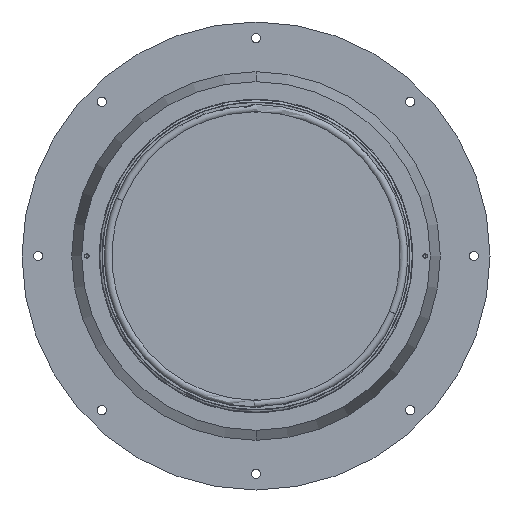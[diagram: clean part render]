
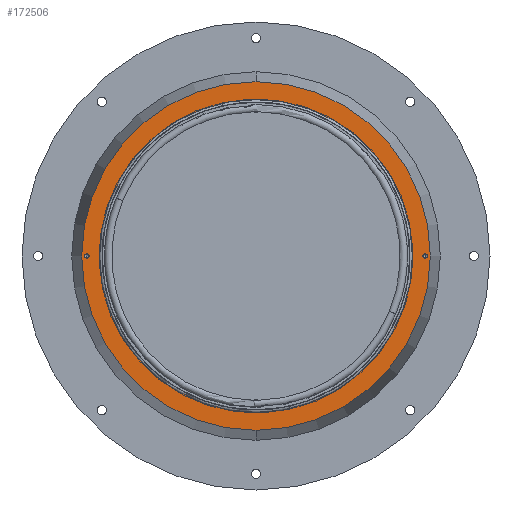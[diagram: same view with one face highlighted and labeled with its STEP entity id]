
A CAD part, front view. The second image highlights one B-rep face of the part: STEP entity #172506.
In plain terms, the highlighted planar face has unit normal (0, -1, 0).
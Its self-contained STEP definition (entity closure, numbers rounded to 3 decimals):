
#2004 = CARTESIAN_POINT ( 'NONE',  ( -330., -724.968, -4.25 ) ) ;
#2142 = EDGE_LOOP ( 'NONE', ( #52162, #388819 ) ) ;
#12715 = DIRECTION ( 'NONE',  ( 0., -1., 0. ) ) ;
#19150 = FACE_BOUND ( 'NONE', #314135, .T. ) ;
#20608 = CARTESIAN_POINT ( 'NONE',  ( 0., -724.968, 340. ) ) ;
#22301 = DIRECTION ( 'NONE',  ( 0., -1., 0. ) ) ;
#30857 = FACE_BOUND ( 'NONE', #2142, .T. ) ;
#52162 = ORIENTED_EDGE ( 'NONE', *, *, #366896, .F. ) ;
#70989 = ORIENTED_EDGE ( 'NONE', *, *, #370646, .F. ) ;
#97877 = EDGE_LOOP ( 'NONE', ( #301619, #477193 ) ) ;
#101218 = CIRCLE ( 'NONE', #136009, 4.25 ) ;
#107237 = EDGE_LOOP ( 'NONE', ( #70989, #304598 ) ) ;
#110704 = AXIS2_PLACEMENT_3D ( 'NONE', #412339, #188646, #449771 ) ;
#117000 = VERTEX_POINT ( 'NONE', #353066 ) ;
#118195 = CIRCLE ( 'NONE', #398965, 340. ) ;
#130348 = FACE_OUTER_BOUND ( 'NONE', #97877, .T. ) ;
#136009 = AXIS2_PLACEMENT_3D ( 'NONE', #446844, #223235, #484251 ) ;
#136924 = VERTEX_POINT ( 'NONE', #359837 ) ;
#137596 = ORIENTED_EDGE ( 'NONE', *, *, #338504, .F. ) ;
#162644 = DIRECTION ( 'NONE',  ( 0., -1., 0. ) ) ;
#164962 = VERTEX_POINT ( 'NONE', #414720 ) ;
#172506 = ADVANCED_FACE ( 'NONE', ( #30857, #19150, #130348, #218132 ), #257318, .T. ) ;
#174313 = CARTESIAN_POINT ( 'NONE',  ( 0., -724.968, 0. ) ) ;
#184202 = DIRECTION ( 'NONE',  ( 0., -1., 0. ) ) ;
#188646 = DIRECTION ( 'NONE',  ( 0., -1., 0. ) ) ;
#189972 = AXIS2_PLACEMENT_3D ( 'NONE', #407905, #184202, #445305 ) ;
#211861 = DIRECTION ( 'NONE',  ( 0., 0., -1. ) ) ;
#214868 = VERTEX_POINT ( 'NONE', #2004 ) ;
#218132 = FACE_BOUND ( 'NONE', #107237, .T. ) ;
#218382 = DIRECTION ( 'NONE',  ( 0., -1., 0. ) ) ;
#221471 = DIRECTION ( 'NONE',  ( 0., -1., 0. ) ) ;
#223235 = DIRECTION ( 'NONE',  ( 0., -1., 0. ) ) ;
#236705 = CARTESIAN_POINT ( 'NONE',  ( -330., -724.968, 0. ) ) ;
#246207 = CARTESIAN_POINT ( 'NONE',  ( 0., -724.968, 0. ) ) ;
#249094 = AXIS2_PLACEMENT_3D ( 'NONE', #246207, #22301, #283774 ) ;
#257318 = PLANE ( 'NONE',  #371622 ) ;
#265404 = CIRCLE ( 'NONE', #405240, 305. ) ;
#274213 = DIRECTION ( 'NONE',  ( 0., 0., -1. ) ) ;
#275218 = CIRCLE ( 'NONE', #189972, 305. ) ;
#282989 = CIRCLE ( 'NONE', #110704, 4.25 ) ;
#283774 = DIRECTION ( 'NONE',  ( 0., 0., -1. ) ) ;
#289037 = ORIENTED_EDGE ( 'NONE', *, *, #369166, .F. ) ;
#293049 = CIRCLE ( 'NONE', #249094, 340. ) ;
#297052 = VERTEX_POINT ( 'NONE', #459156 ) ;
#299216 = CIRCLE ( 'NONE', #368422, 4.25 ) ;
#301619 = ORIENTED_EDGE ( 'NONE', *, *, #342007, .T. ) ;
#304598 = ORIENTED_EDGE ( 'NONE', *, *, #366153, .F. ) ;
#314135 = EDGE_LOOP ( 'NONE', ( #289037, #137596 ) ) ;
#322548 = EDGE_CURVE ( 'NONE', #415802, #117000, #299216, .T. ) ;
#324612 = CARTESIAN_POINT ( 'NONE',  ( 0., -724.968, -305. ) ) ;
#331185 = CARTESIAN_POINT ( 'NONE',  ( 330., -724.968, 4.25 ) ) ;
#338504 = EDGE_CURVE ( 'NONE', #297052, #214868, #282989, .T. ) ;
#341754 = VERTEX_POINT ( 'NONE', #324612 ) ;
#342007 = EDGE_CURVE ( 'NONE', #136924, #351106, #118195, .T. ) ;
#351106 = VERTEX_POINT ( 'NONE', #20608 ) ;
#353066 = CARTESIAN_POINT ( 'NONE',  ( 330., -724.968, -4.25 ) ) ;
#359837 = CARTESIAN_POINT ( 'NONE',  ( 0., -724.968, -340. ) ) ;
#366153 = EDGE_CURVE ( 'NONE', #164962, #341754, #265404, .T. ) ;
#366896 = EDGE_CURVE ( 'NONE', #117000, #415802, #101218, .T. ) ;
#368422 = AXIS2_PLACEMENT_3D ( 'NONE', #386477, #162644, #423938 ) ;
#369166 = EDGE_CURVE ( 'NONE', #214868, #297052, #375277, .T. ) ;
#369724 = EDGE_CURVE ( 'NONE', #351106, #136924, #293049, .T. ) ;
#370646 = EDGE_CURVE ( 'NONE', #341754, #164962, #275218, .T. ) ;
#371622 = AXIS2_PLACEMENT_3D ( 'NONE', #445069, #221471, #482511 ) ;
#375277 = CIRCLE ( 'NONE', #408808, 4.25 ) ;
#386477 = CARTESIAN_POINT ( 'NONE',  ( 330., -724.968, 0. ) ) ;
#388819 = ORIENTED_EDGE ( 'NONE', *, *, #322548, .F. ) ;
#398965 = AXIS2_PLACEMENT_3D ( 'NONE', #441982, #218382, #479422 ) ;
#405240 = AXIS2_PLACEMENT_3D ( 'NONE', #174313, #435473, #211861 ) ;
#407905 = CARTESIAN_POINT ( 'NONE',  ( 0., -724.968, 0. ) ) ;
#408808 = AXIS2_PLACEMENT_3D ( 'NONE', #236705, #12715, #274213 ) ;
#412339 = CARTESIAN_POINT ( 'NONE',  ( -330., -724.968, 0. ) ) ;
#414720 = CARTESIAN_POINT ( 'NONE',  ( 0., -724.968, 305. ) ) ;
#415802 = VERTEX_POINT ( 'NONE', #331185 ) ;
#423938 = DIRECTION ( 'NONE',  ( 0., 0., -1. ) ) ;
#435473 = DIRECTION ( 'NONE',  ( 0., -1., 0. ) ) ;
#441982 = CARTESIAN_POINT ( 'NONE',  ( 0., -724.968, 0. ) ) ;
#445069 = CARTESIAN_POINT ( 'NONE',  ( 305., -724.968, 0. ) ) ;
#445305 = DIRECTION ( 'NONE',  ( 0., 0., -1. ) ) ;
#446844 = CARTESIAN_POINT ( 'NONE',  ( 330., -724.968, 0. ) ) ;
#449771 = DIRECTION ( 'NONE',  ( 0., 0., -1. ) ) ;
#459156 = CARTESIAN_POINT ( 'NONE',  ( -330., -724.968, 4.25 ) ) ;
#477193 = ORIENTED_EDGE ( 'NONE', *, *, #369724, .T. ) ;
#479422 = DIRECTION ( 'NONE',  ( 0., 0., -1. ) ) ;
#482511 = DIRECTION ( 'NONE',  ( 0., 0., -1. ) ) ;
#484251 = DIRECTION ( 'NONE',  ( 0., 0., -1. ) ) ;
